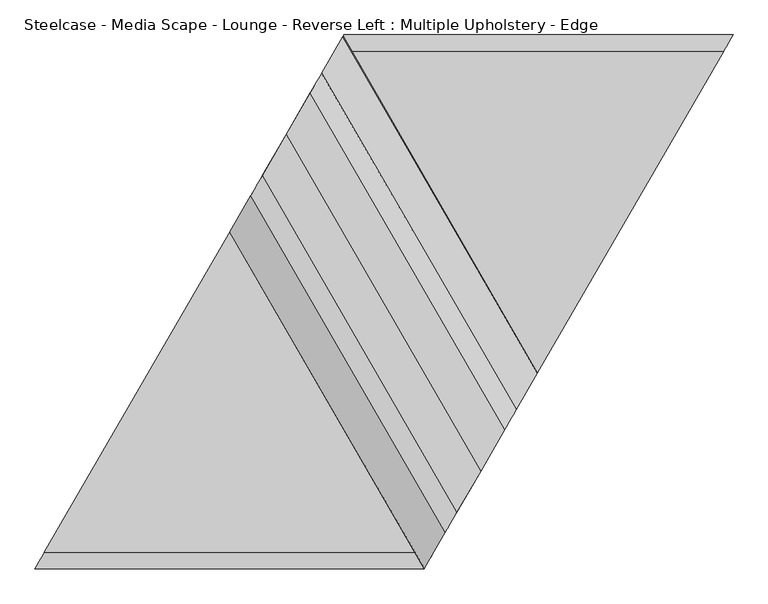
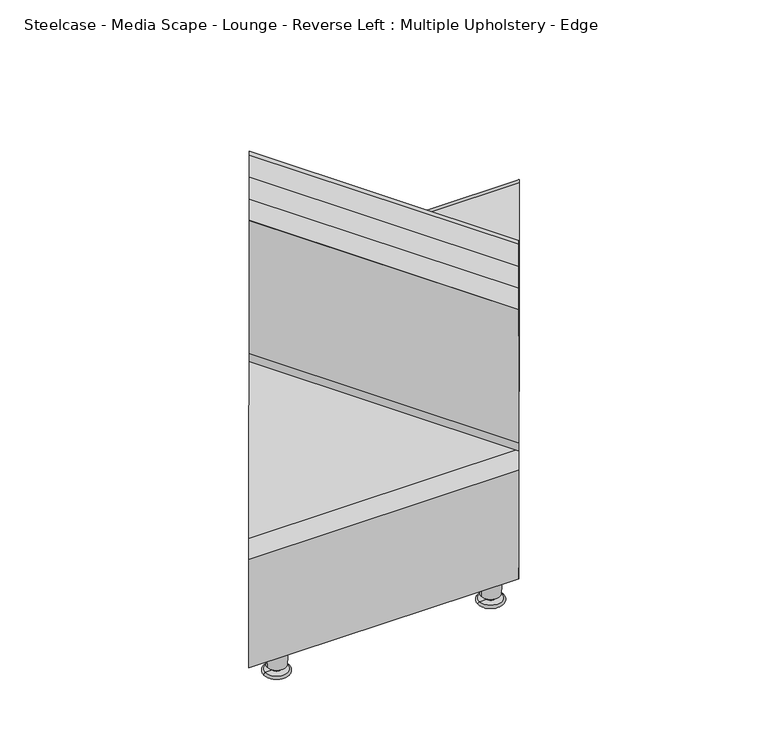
"""IFC4 building model written with IfcOpenShell, lengths in millimetres: furniture geometry, Steelcase - Media Scape - Lounge - Reverse Left : Multiple Upholstery - Edge."""

from ifc_helpers import new_model, si_unit, point, frame, origin, place, context, project, spatial, polyline, circle_curve, ellipse_curve, trimmed, source, transform, mapped, element, save
from ifc_brep_helpers import plane_surface, cylinder_surface, revolved_surface, advanced_brep


def steelcase_media_scape_lounge_reverse_left_multiple_538b377f(model_context):
    return source(origin(), model_context, "Body", "AdvancedBrep", [
        advanced_brep(
        [(695.4343233, 152.5570499, 736.0929961), (392.1305336, 677.8946237, 736.0929961), (355.1946098, 614.041743, 736.0929961), (658.4983994, 88.7041692, 736.0929961), (337.063593, 582.6977957, 710.4083904), (640.3673827, 57.3602219, 710.4083904), (337.6629318, 583.7339011, 710.4083904), (640.9667215, 58.3963272, 710.4083904), (355.1946098, 614.041743, 735.0769961), (658.4983994, 88.7041692, 735.0769961), (392.1305336, 677.8946237, 735.0769961), (695.4343233, 152.5570499, 735.0769961), (429.8477806, 743.0982149, 735.0769961), (733.1515703, 217.760641, 735.0769961), (447.3540891, 773.3621994, 710.6155836), (750.6578788, 248.0246256, 710.6155836), (447.9542677, 774.3997566, 710.6155836), (751.2580574, 249.0621827, 710.6155836), (429.8477806, 743.0982149, 736.0929961), (733.1515703, 217.760641, 736.0929961)],
        [
            (0, 1),
            (1, 2),
            (2, 3),
            (3, 0),
            (2, 4, ellipse_curve(frame((355.1946098, 614.041743, 704.0889961), z_axis=(0.8656115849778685, -0.5007160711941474, 0.0), x_axis=(-0.5007160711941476, -0.8656115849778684, 0.0)), 36.9374112, 32.004)),
            (4, 5),
            (5, 3, ellipse_curve(frame((658.4983994, 88.7041692, 704.0889961), z_axis=(-0.8656115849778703, 0.5007160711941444, 0.0), x_axis=(-0.5007160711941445, -0.86561158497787, 0.0)), 36.9374112, 32.004)),
            (4, 6),
            (6, 7),
            (7, 5),
            (6, 8, ellipse_curve(frame((355.1946098, 614.041743, 704.0889961), z_axis=(-0.8656115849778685, 0.5007160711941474, 0.0), x_axis=(0.5007160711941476, 0.8656115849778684, 0.0)), 35.764795, 30.988)),
            (8, 9),
            (9, 7, ellipse_curve(frame((658.4983994, 88.7041692, 704.0889961), z_axis=(0.8656115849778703, -0.5007160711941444, 0.0), x_axis=(0.5007160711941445, 0.86561158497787, 0.0)), 35.764795, 30.988)),
            (8, 10),
            (10, 11),
            (11, 9),
            (10, 12),
            (12, 13),
            (13, 11),
            (12, 14, ellipse_curve(frame((429.8477806, 743.0982149, 704.0889961), z_axis=(-0.8656115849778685, 0.5007160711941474, 0.0), x_axis=(0.5007160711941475, 0.8656115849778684, 0.0)), 35.764795, 30.988)),
            (14, 15),
            (15, 13, ellipse_curve(frame((733.1515703, 217.760641, 704.0889961), z_axis=(0.8656115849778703, -0.5007160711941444, 0.0), x_axis=(0.5007160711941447, 0.86561158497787, 0.0)), 35.764795, 30.988)),
            (14, 16),
            (16, 17),
            (17, 15),
            (16, 18, ellipse_curve(frame((429.8477806, 743.0982149, 704.0889961), z_axis=(0.8656115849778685, -0.5007160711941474, 0.0), x_axis=(-0.5007160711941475, -0.8656115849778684, 0.0)), 36.9374112, 32.004)),
            (18, 19),
            (19, 17, ellipse_curve(frame((733.1515703, 217.760641, 704.0889961), z_axis=(-0.8656115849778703, 0.5007160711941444, 0.0), x_axis=(-0.5007160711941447, -0.86561158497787, 0.0)), 36.9374112, 32.004)),
            (0, 19),
            (18, 1),
        ],
        [
            plane_surface(frame((739.8122575, 75.6922131, 736.0929961), z_axis=(0.0, 0.0, 1.0), x_axis=(-0.49999999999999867, 0.8660254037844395, 0.0))),
            cylinder_surface(frame((291.4293384, 724.4864327, 704.0889961), z_axis=(0.49999999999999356, -0.8660254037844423, 0.0), x_axis=(-0.8660254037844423, -0.49999999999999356, 0.0)), 32.004),
            plane_surface(frame((657.2906163, 28.0483214, 710.4083904), z_axis=(0.0, 0.0, -1.0), x_axis=(-0.4999999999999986, 0.8660254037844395, 0.0))),
            revolved_surface(polyline([(319.42982696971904, 614.0121638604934, 704.0889961), (640.5903917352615, 57.74574829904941, 704.0889961)]), (291.4293384, 724.4864327, 704.0889961), (-0.49999999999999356, 0.8660254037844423, 0.0)),
            plane_surface(frame((684.4612062, 43.7352688, 735.0769961), z_axis=(0.0, 0.0, -1.0), x_axis=(-0.49999999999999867, 0.8660254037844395, 0.0))),
            plane_surface(frame((739.8122575, 75.6922131, 735.0769961), z_axis=(0.0, 0.0, -1.0), x_axis=(-0.49999999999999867, 0.8660254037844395, 0.0))),
            revolved_surface(polyline([(447.7557882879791, 774.0566358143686, 704.0889961), (768.916353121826, 217.79022013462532, 704.0889961)]), (403.3023082, 789.0763219, 704.0889961), (-0.49999999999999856, 0.8660254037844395, 0.0)),
            plane_surface(frame((822.568597, 123.471608, 710.6155836), z_axis=(0.0, 0.0, -1.0), x_axis=(-0.49999999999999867, 0.8660254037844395, 0.0))),
            cylinder_surface(frame((403.3023082, 789.0763219, 704.0889961), z_axis=(0.49999999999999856, -0.8660254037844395, 0.0), x_axis=(0.8660254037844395, 0.49999999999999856, 0.0)), 32.004),
            plane_surface(frame((796.3341759, 108.325158, 736.0929961), z_axis=(0.0, 0.0, 1.0000000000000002), x_axis=(-0.4999999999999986, 0.8660254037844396, 0.0))),
            plane_surface(frame((1244.6, 1101.9257624, 750.6521515), z_axis=(0.8656115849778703, -0.5007160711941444, 0.0), x_axis=(0.0, 0.0, -1.0))),
            plane_surface(frame((-113.1046529, -195.5293698, 750.6521515), z_axis=(-0.8656115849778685, 0.5007160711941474, 0.0), x_axis=(0.0, 0.0, -1.0))),
        ],
        [
            (0, [[1, 2, 3, 4]]),
            (1, [[-3, 5, 6, 7]]),
            (2, [[-6, 8, 9, 10]]),
            (3, [[-9, 11, 12, 13]]),
            (4, [[-12, 14, 15, 16]]),
            (5, [[-15, 17, 18, 19]]),
            (6, [[-18, 20, 21, 22]]),
            (7, [[-21, 23, 24, 25]]),
            (8, [[-24, 26, 27, 28]]),
            (9, [[-1, 29, -27, 30]]),
            (10, [[-4, -7, -10, -13, -16, -19, -22, -25, -28, -29]]),
            (11, [[-2, -30, -26, -23, -20, -17, -14, -11, -8, -5]]),
        ],
    ),
        advanced_brep(
        [(733.2985607, 218.0147503, 735.33), (429.994771, 743.3523242, 735.33), (392.1305336, 677.8946237, 735.33), (695.4343233, 152.5570499, 735.33), (355.0476193, 613.7876338, 735.33), (658.351409, 88.4500599, 735.33), (337.0848346, 582.734517, 710.0547892), (640.3886243, 57.3969432, 710.0547892), (304.4075131, 526.243684, 438.6065476), (607.7113028, 0.9061101, 438.6065476), (319.5651722, 552.447447, 406.3510633), (622.8689619, 27.1098731, 406.3510633), (392.5844661, 678.6793583, 406.3510633), (695.8882558, 153.3417845, 406.3510633), (465.4772182, 804.6925109, 406.3510633), (768.7810079, 279.3549371, 406.3510633), (480.6348772, 830.896274, 438.6065476), (783.9386669, 305.5587001, 438.6065476), (447.9575558, 774.4054409, 710.0547892), (751.2613455, 249.067867, 710.0547892)],
        [
            (0, 1),
            (1, 2),
            (2, 3),
            (3, 0),
            (2, 4),
            (4, 5),
            (5, 3),
            (4, 6, ellipse_curve(frame((355.0476193, 613.7876338, 703.58), z_axis=(0.8656115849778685, -0.5007160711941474, 0.0), x_axis=(-0.5007160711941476, -0.8656115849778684, 0.0)), 36.6442572, 31.75)),
            (6, 7),
            (7, 5, ellipse_curve(frame((658.351409, 88.4500599, 703.58), z_axis=(-0.8656115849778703, 0.5007160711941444, 0.0), x_axis=(-0.5007160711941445, -0.86561158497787, 0.0)), 36.6442572, 31.75)),
            (6, 8),
            (8, 9),
            (9, 7),
            (8, 10, ellipse_curve(frame((319.5651722, 552.447447, 433.1428821), z_axis=(0.8656115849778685, -0.5007160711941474, 0.0), x_axis=(-0.5007160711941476, -0.8656115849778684, 0.0)), 30.9217732, 26.7918188)),
            (10, 11),
            (11, 9, ellipse_curve(frame((622.8689619, 27.1098731, 433.1428821), z_axis=(-0.8656115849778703, 0.5007160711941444, 0.0), x_axis=(-0.5007160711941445, -0.86561158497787, 0.0)), 30.9217732, 26.7918188)),
            (10, 12),
            (12, 13),
            (13, 11),
            (12, 14),
            (14, 15),
            (15, 13),
            (14, 16, ellipse_curve(frame((465.4772182, 804.6925109, 433.1428821), z_axis=(0.8656115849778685, -0.5007160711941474, 0.0), x_axis=(-0.5007160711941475, -0.8656115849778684, 0.0)), 30.9217732, 26.7918188)),
            (16, 17),
            (17, 15, ellipse_curve(frame((768.7810079, 279.3549371, 433.1428821), z_axis=(-0.8656115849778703, 0.5007160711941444, 0.0), x_axis=(-0.5007160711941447, -0.86561158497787, 0.0)), 30.9217732, 26.7918188)),
            (16, 18),
            (18, 19),
            (19, 17),
            (0, 19, ellipse_curve(frame((733.2985607, 218.0147503, 703.58), z_axis=(-0.8656115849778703, 0.5007160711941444, 0.0), x_axis=(-0.5007160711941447, -0.86561158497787, 0.0)), 36.6442572, 31.75)),
            (18, 1, ellipse_curve(frame((429.994771, 743.3523242, 703.58), z_axis=(0.8656115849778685, -0.5007160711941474, 0.0), x_axis=(-0.5007160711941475, -0.8656115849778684, 0.0)), 36.6442572, 31.75)),
        ],
        [
            plane_surface(frame((796.5544513, 108.452334, 735.33), z_axis=(0.0, 0.0, 1.0), x_axis=(-0.49999999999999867, 0.8660254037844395, 0.0))),
            plane_surface(frame((739.8122575, 75.6922131, 735.33), z_axis=(0.0, 0.0, 1.0), x_axis=(-0.49999999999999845, 0.8660254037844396, 0.0))),
            cylinder_surface(frame((291.2090631, 724.3592567, 703.58), z_axis=(0.49999999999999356, -0.8660254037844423, 0.0), x_axis=(-0.8660254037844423, -0.49999999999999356, 0.0)), 31.75),
            plane_surface(frame((657.3224483, 28.0666996, 710.0547892), z_axis=(-0.8478262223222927, -0.4894926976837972, 0.2039303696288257), x_axis=(-0.49999999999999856, 0.8660254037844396, 0.0))),
            cylinder_surface(frame((238.0361477, 693.6598597, 433.1428821), z_axis=(0.49999999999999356, -0.8660254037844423, 0.0), x_axis=(-0.8660254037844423, -0.49999999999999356, 0.0)), 26.7918188),
            plane_surface(frame((631.0680155, 12.9086957, 406.3510633), z_axis=(0.0, 0.0, -1.0000000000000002), x_axis=(-0.4999999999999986, 0.8660254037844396, 0.0))),
            plane_surface(frame((740.4925069, 76.0849553, 406.3510633), z_axis=(0.0, 0.0, -1.0), x_axis=(-0.49999999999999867, 0.8660254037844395, 0.0))),
            cylinder_surface(frame((456.6954989, 819.902895, 433.1428821), z_axis=(0.49999999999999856, -0.8660254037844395, 0.0), x_axis=(0.8660254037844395, 0.49999999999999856, 0.0)), 26.7918188),
            plane_surface(frame((872.4421732, 152.2661306, 438.6065476), z_axis=(0.8478262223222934, 0.489492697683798, 0.20393036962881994), x_axis=(-0.4999999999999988, 0.8660254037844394, 0.0))),
            cylinder_surface(frame((403.5225835, 789.203498, 703.58), z_axis=(0.49999999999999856, -0.8660254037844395, 0.0), x_axis=(0.8660254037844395, 0.49999999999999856, 0.0)), 31.75),
            plane_surface(frame((1244.6, 1101.9257624, 750.6521515), z_axis=(0.8656115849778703, -0.5007160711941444, 0.0), x_axis=(0.0, 0.0, -1.0))),
            plane_surface(frame((-113.1046529, -195.5293698, 750.6521515), z_axis=(-0.8656115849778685, 0.5007160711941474, 0.0), x_axis=(0.0, 0.0, -1.0))),
        ],
        [
            (0, [[1, 2, 3, 4]]),
            (1, [[-3, 5, 6, 7]]),
            (2, [[-6, 8, 9, 10]]),
            (3, [[-9, 11, 12, 13]]),
            (4, [[-12, 14, 15, 16]]),
            (5, [[-15, 17, 18, 19]]),
            (6, [[-18, 20, 21, 22]]),
            (7, [[-21, 23, 24, 25]]),
            (8, [[-24, 26, 27, 28]]),
            (9, [[-1, 29, -27, 30]]),
            (10, [[-4, -7, -10, -13, -16, -19, -22, -25, -28, -29]]),
            (11, [[-2, -30, -26, -23, -20, -17, -14, -11, -8, -5]]),
        ],
    ),
        advanced_brep(
        [(1059.8466558, 782.5339068, 74.676), (452.6594956, 782.5339068, 74.676), (482.1409984, 833.4999769, 374.7917281), (1089.3281586, 833.4999769, 374.7917281), (467.6556677, 808.4584998, 404.4443065), (1074.842828, 808.4584998, 404.4443065), (14.7196556, 25.4465658, 404.4443065), (621.9068159, 25.4465658, 404.4443065), (0.234325, 0.4050887, 374.7917281), (607.4214852, 0.4050887, 374.7917281), (29.7158278, 51.3711588, 74.676), (636.9029881, 51.3711588, 74.676), (243.0239183, 420.1269566, 74.676), (850.2110786, 420.1269566, 74.676)],
        [
            (0, 1),
            (1, 2),
            (2, 3),
            (3, 0),
            (2, 4, ellipse_curve(frame((467.6556677, 808.4584998, 379.0443065), z_axis=(0.8656115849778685, -0.5007160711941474, 0.0), x_axis=(0.5007160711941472, 0.8656115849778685, 0.0)), 29.343415, 25.4)),
            (4, 5),
            (5, 3, ellipse_curve(frame((1074.842828, 808.4584998, 379.0443065), z_axis=(-0.8656115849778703, 0.5007160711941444, 0.0), x_axis=(0.500716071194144, 0.8656115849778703, 0.0)), 29.343415, 25.4)),
            (4, 6),
            (6, 7),
            (7, 5),
            (6, 8, ellipse_curve(frame((14.7196556, 25.4465658, 379.0443065), z_axis=(0.8656115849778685, -0.5007160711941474, 0.0), x_axis=(0.5007160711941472, 0.8656115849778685, 0.0)), 29.343415, 25.4)),
            (8, 9),
            (9, 7, ellipse_curve(frame((621.9068159, 25.4465658, 379.0443065), z_axis=(-0.8656115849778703, 0.5007160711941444, 0.0), x_axis=(0.500716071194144, 0.8656115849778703, 0.0)), 29.343415, 25.4)),
            (8, 10),
            (10, 11),
            (11, 9),
            (10, 12),
            (12, 13),
            (13, 11),
            (0, 13),
            (12, 1),
        ],
        [
            plane_surface(frame((1094.6230669, 782.5339068, 74.676), z_axis=(0.0, 0.9858849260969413, -0.16742434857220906), x_axis=(-1.0, 0.0, 0.0))),
            cylinder_surface(frame((0.0, 808.4584998, 379.0443065), z_axis=(1.0, 0.0, 0.0), x_axis=(0.0, 1.0, 0.0)), 25.4),
            plane_surface(frame((1094.6230669, 808.4584998, 404.4443065), z_axis=(0.0, 0.0, 1.0), x_axis=(-1.0, 0.0, 0.0))),
            cylinder_surface(frame((0.0, 25.4465658, 379.0443065), z_axis=(1.0, 0.0, 0.0), x_axis=(0.0, -1.0, 0.0)), 25.4),
            plane_surface(frame((1094.6230669, 0.4050887, 374.7917281), z_axis=(0.0, -0.9858849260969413, -0.1674243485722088), x_axis=(-1.0, 0.0, 0.0))),
            plane_surface(frame((1094.6230669, 51.3711588, 74.676), z_axis=(0.0, 0.0, -1.0), x_axis=(-1.0, 0.0, 0.0))),
            plane_surface(frame((1094.6230669, 420.1269566, 74.676), z_axis=(0.0, 0.0, -1.0), x_axis=(-1.0, 0.0, 0.0))),
            plane_surface(frame((1244.6, 1101.9257624, 750.6521515), z_axis=(0.8656115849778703, -0.5007160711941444, 0.0), x_axis=(0.0, 0.0, -1.0))),
            plane_surface(frame((-113.1046529, -195.5293698, 750.6521515), z_axis=(-0.8656115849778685, 0.5007160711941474, 0.0), x_axis=(0.0, 0.0, -1.0))),
        ],
        [
            (0, [[1, 2, 3, 4]]),
            (1, [[-3, 5, 6, 7]]),
            (2, [[-6, 8, 9, 10]]),
            (3, [[-9, 11, 12, 13]]),
            (4, [[-12, 14, 15, 16]]),
            (5, [[-15, 17, 18, 19]]),
            (6, [[-1, 20, -18, 21]]),
            (7, [[-4, -7, -10, -13, -16, -19, -20]]),
            (8, [[-2, -21, -17, -14, -11, -8, -5]]),
        ],
    ),
        advanced_brep(
        [(964.0013944, 727.1583042, 74.1561731), (987.7883146, 727.1583042, 74.1561731), (940.2144743, 727.1583042, 74.1561731), (937.9477522, 727.1583042, 0.0), (990.0550367, 727.1583042, 0.0), (964.0013944, 727.1583042, 0.0), (937.9477522, 727.1583042, 6.3788302), (990.0550367, 727.1583042, 6.3788302), (954.4763944, 727.1583042, 6.3788302), (973.5263944, 727.1583042, 6.3788302), (954.4763944, 727.1583042, 17.057519), (973.5263944, 727.1583042, 17.057519), (943.0462782, 727.1583042, 17.057519), (984.9565107, 727.1583042, 17.057519)],
        [
            (0, 1),
            (1, 2, circle_curve(frame((964.0013944, 727.1583042, 74.1561731), z_axis=(0.0, 0.0, 1.0), x_axis=(1.0, 0.0, 0.0)), 23.7869202)),
            (2, 0),
            (2, 1, circle_curve(frame((964.0013944, 727.1583042, 74.1561731), z_axis=(0.0, 0.0, 1.0), x_axis=(1.0, 0.0, 0.0)), 23.7869202)),
            (3, 4, circle_curve(frame((964.0013944, 727.1583042, 0.0), z_axis=(0.0, 0.0, -1.0), x_axis=(1.0, 0.0, 0.0)), 26.0536423)),
            (4, 5),
            (5, 3),
            (4, 3, circle_curve(frame((964.0013944, 727.1583042, 0.0), z_axis=(0.0, 0.0, -1.0), x_axis=(1.0, 0.0, 0.0)), 26.0536423)),
            (3, 6, circle_curve(frame((937.9477522, 727.1583042, 3.1894151), z_axis=(0.0, 1.0, 0.0), x_axis=(-1.0, 0.0, 0.0)), 3.1894151)),
            (6, 7, circle_curve(frame((964.0013944, 727.1583042, 6.3788302), z_axis=(0.0, 0.0, -1.0), x_axis=(1.0, 0.0, 0.0)), 26.0536423)),
            (7, 4, circle_curve(frame((990.0550367, 727.1583042, 3.1894151), z_axis=(0.0, 1.0, 0.0), x_axis=(1.0, 0.0, 0.0)), 3.1894151)),
            (7, 6, circle_curve(frame((964.0013944, 727.1583042, 6.3788302), z_axis=(0.0, 0.0, -1.0), x_axis=(1.0, 0.0, 0.0)), 26.0536423)),
            (6, 8),
            (8, 9, circle_curve(frame((964.0013944, 727.1583042, 6.3788302), z_axis=(0.0, 0.0, -1.0), x_axis=(1.0, 0.0, 0.0)), 9.525)),
            (9, 7),
            (9, 8, circle_curve(frame((964.0013944, 727.1583042, 6.3788302), z_axis=(0.0, 0.0, -1.0), x_axis=(1.0, 0.0, 0.0)), 9.525)),
            (8, 10),
            (10, 11, circle_curve(frame((964.0013944, 727.1583042, 17.057519), z_axis=(0.0, 0.0, -1.0), x_axis=(1.0, 0.0, 0.0)), 9.525)),
            (11, 9),
            (11, 10, circle_curve(frame((964.0013944, 727.1583042, 17.057519), z_axis=(0.0, 0.0, -1.0), x_axis=(1.0, 0.0, 0.0)), 9.525)),
            (10, 12),
            (12, 13, circle_curve(frame((964.0013944, 727.1583042, 17.057519), z_axis=(0.0, 0.0, -1.0), x_axis=(1.0, 0.0, 0.0)), 20.9551163)),
            (13, 11),
            (13, 12, circle_curve(frame((964.0013944, 727.1583042, 17.057519), z_axis=(0.0, 0.0, -1.0), x_axis=(1.0, 0.0, 0.0)), 20.9551163)),
            (1, 13),
            (12, 2),
        ],
        [
            plane_surface(frame((964.0013944, 727.1583042, 74.1561731), z_axis=(0.0, 0.0, 1.0), x_axis=(1.0, 0.0, 0.0))),
            plane_surface(frame((964.0013944, 727.1583042, 0.0), z_axis=(0.0, 0.0, -1.0), x_axis=(1.0, 0.0, 0.0))),
            revolved_surface(trimmed(ellipse_curve(frame((990.0550367, 727.1583042, 3.1894151), z_axis=(0.0, -1.0, 0.0), x_axis=(1.0, 0.0, 0.0)), 3.1894151, 3.1894151), [point((990.0550367, 727.1583042, 0.0))], [point((990.0550367, 727.1583042, 6.3788302))], True, "CARTESIAN"), (964.0013944, 727.1583042, 61.4561731), (0.0, 0.0, 1.0)),
            plane_surface(frame((964.0013944, 727.1583042, 6.3788302), z_axis=(0.0, 0.0, 1.0), x_axis=(1.0, 0.0, 0.0))),
            cylinder_surface(frame((964.0013944, 727.1583042, 61.4561731), z_axis=(0.0, 0.0, 1.0), x_axis=(1.0, 0.0, 0.0)), 9.525),
            plane_surface(frame((964.0013944, 727.1583042, 17.057519), z_axis=(0.0, 0.0, -1.0), x_axis=(1.0, 0.0, 0.0))),
            revolved_surface(polyline([(984.9565107, 727.1583042, 17.057519), (987.7883146, 727.1583042, 74.1561731)]), (964.0013944, 727.1583042, 61.4561731), (0.0, 0.0, 1.0)),
        ],
        [
            (0, [[1, 2, 3]]),
            (0, [[-1, -3, 4]]),
            (1, [[5, 6, 7]]),
            (1, [[-6, 8, -7]]),
            (2, [[-5, 9, 10, 11]]),
            (2, [[-8, -11, 12, -9]]),
            (3, [[-10, 13, 14, 15]]),
            (3, [[-12, -15, 16, -13]]),
            (4, [[-14, 17, 18, 19]]),
            (4, [[-16, -19, 20, -17]]),
            (5, [[-18, 21, 22, 23]]),
            (5, [[-20, -23, 24, -21]]),
            (6, [[-2, 25, -22, 26]]),
            (6, [[-4, -26, -24, -25]]),
        ],
    ),
        advanced_brep(
        [(482.2011518, 727.1583042, 74.1561731), (505.988072, 727.1583042, 74.1561731), (458.4142317, 727.1583042, 74.1561731), (456.1475095, 727.1583042, 0.0), (508.2547941, 727.1583042, 0.0), (482.2011518, 727.1583042, 0.0), (456.1475095, 727.1583042, 6.3788302), (508.2547941, 727.1583042, 6.3788302), (472.6761518, 727.1583042, 6.3788302), (491.7261518, 727.1583042, 6.3788302), (472.6761518, 727.1583042, 17.057519), (491.7261518, 727.1583042, 17.057519), (461.2460355, 727.1583042, 17.057519), (503.1562681, 727.1583042, 17.057519)],
        [
            (0, 1),
            (1, 2, circle_curve(frame((482.2011518, 727.1583042, 74.1561731), z_axis=(0.0, 0.0, 1.0), x_axis=(1.0, 0.0, 0.0)), 23.7869202)),
            (2, 0),
            (2, 1, circle_curve(frame((482.2011518, 727.1583042, 74.1561731), z_axis=(0.0, 0.0, 1.0), x_axis=(1.0, 0.0, 0.0)), 23.7869202)),
            (3, 4, circle_curve(frame((482.2011518, 727.1583042, 0.0), z_axis=(0.0, 0.0, -1.0), x_axis=(1.0, 0.0, 0.0)), 26.0536423)),
            (4, 5),
            (5, 3),
            (4, 3, circle_curve(frame((482.2011518, 727.1583042, 0.0), z_axis=(0.0, 0.0, -1.0), x_axis=(1.0, 0.0, 0.0)), 26.0536423)),
            (3, 6, circle_curve(frame((456.1475095, 727.1583042, 3.1894151), z_axis=(0.0, 1.0, 0.0), x_axis=(-1.0, 0.0, 0.0)), 3.1894151)),
            (6, 7, circle_curve(frame((482.2011518, 727.1583042, 6.3788302), z_axis=(0.0, 0.0, -1.0), x_axis=(1.0, 0.0, 0.0)), 26.0536423)),
            (7, 4, circle_curve(frame((508.2547941, 727.1583042, 3.1894151), z_axis=(0.0, 1.0, 0.0), x_axis=(1.0, 0.0, 0.0)), 3.1894151)),
            (7, 6, circle_curve(frame((482.2011518, 727.1583042, 6.3788302), z_axis=(0.0, 0.0, -1.0), x_axis=(1.0, 0.0, 0.0)), 26.0536423)),
            (6, 8),
            (8, 9, circle_curve(frame((482.2011518, 727.1583042, 6.3788302), z_axis=(0.0, 0.0, -1.0), x_axis=(1.0, 0.0, 0.0)), 9.525)),
            (9, 7),
            (9, 8, circle_curve(frame((482.2011518, 727.1583042, 6.3788302), z_axis=(0.0, 0.0, -1.0), x_axis=(1.0, 0.0, 0.0)), 9.525)),
            (8, 10),
            (10, 11, circle_curve(frame((482.2011518, 727.1583042, 17.057519), z_axis=(0.0, 0.0, -1.0), x_axis=(1.0, 0.0, 0.0)), 9.525)),
            (11, 9),
            (11, 10, circle_curve(frame((482.2011518, 727.1583042, 17.057519), z_axis=(0.0, 0.0, -1.0), x_axis=(1.0, 0.0, 0.0)), 9.525)),
            (10, 12),
            (12, 13, circle_curve(frame((482.2011518, 727.1583042, 17.057519), z_axis=(0.0, 0.0, -1.0), x_axis=(1.0, 0.0, 0.0)), 20.9551163)),
            (13, 11),
            (13, 12, circle_curve(frame((482.2011518, 727.1583042, 17.057519), z_axis=(0.0, 0.0, -1.0), x_axis=(1.0, 0.0, 0.0)), 20.9551163)),
            (1, 13),
            (12, 2),
        ],
        [
            plane_surface(frame((482.2011518, 727.1583042, 74.1561731), z_axis=(0.0, 0.0, 1.0), x_axis=(1.0, 0.0, 0.0))),
            plane_surface(frame((482.2011518, 727.1583042, 0.0), z_axis=(0.0, 0.0, -1.0), x_axis=(1.0, 0.0, 0.0))),
            revolved_surface(trimmed(ellipse_curve(frame((508.2547941, 727.1583042, 3.1894151), z_axis=(0.0, -1.0, 0.0), x_axis=(1.0, 0.0, 0.0)), 3.1894151, 3.1894151), [point((508.2547941, 727.1583042, 0.0))], [point((508.2547941, 727.1583042, 6.3788302))], True, "CARTESIAN"), (482.2011518, 727.1583042, 61.4561731), (0.0, 0.0, 1.0)),
            plane_surface(frame((482.2011518, 727.1583042, 6.3788302), z_axis=(0.0, 0.0, 1.0), x_axis=(1.0, 0.0, 0.0))),
            cylinder_surface(frame((482.2011518, 727.1583042, 61.4561731), z_axis=(0.0, 0.0, 1.0), x_axis=(1.0, 0.0, 0.0)), 9.525),
            plane_surface(frame((482.2011518, 727.1583042, 17.057519), z_axis=(0.0, 0.0, -1.0), x_axis=(1.0, 0.0, 0.0))),
            revolved_surface(polyline([(503.1562681, 727.1583042, 17.057519), (505.988072, 727.1583042, 74.1561731)]), (482.2011518, 727.1583042, 61.4561731), (0.0, 0.0, 1.0)),
        ],
        [
            (0, [[1, 2, 3]]),
            (0, [[-1, -3, 4]]),
            (1, [[5, 6, 7]]),
            (1, [[-6, 8, -7]]),
            (2, [[-5, 9, 10, 11]]),
            (2, [[-8, -11, 12, -9]]),
            (3, [[-10, 13, 14, 15]]),
            (3, [[-12, -15, 16, -13]]),
            (4, [[-14, 17, 18, 19]]),
            (4, [[-16, -19, 20, -17]]),
            (5, [[-18, 21, 22, 23]]),
            (5, [[-20, -23, 24, -21]]),
            (6, [[-2, 25, -22, 26]]),
            (6, [[-4, -26, -24, -25]]),
        ],
    ),
        advanced_brep(
        [(605.7651212, 106.9669449, 74.1561731), (629.5520414, 106.9669449, 74.1561731), (581.9782011, 106.9669449, 74.1561731), (579.711479, 106.9669449, 0.0), (631.8187635, 106.9669449, 0.0), (605.7651212, 106.9669449, 0.0), (579.711479, 106.9669449, 6.3788302), (631.8187635, 106.9669449, 6.3788302), (596.2401212, 106.9669449, 6.3788302), (615.2901212, 106.9669449, 6.3788302), (596.2401212, 106.9669449, 17.057519), (615.2901212, 106.9669449, 17.057519), (584.810005, 106.9669449, 17.057519), (626.7202375, 106.9669449, 17.057519)],
        [
            (0, 1),
            (1, 2, circle_curve(frame((605.7651212, 106.9669449, 74.1561731), z_axis=(0.0, 0.0, 1.0), x_axis=(1.0, 0.0, 0.0)), 23.7869202)),
            (2, 0),
            (2, 1, circle_curve(frame((605.7651212, 106.9669449, 74.1561731), z_axis=(0.0, 0.0, 1.0), x_axis=(1.0, 0.0, 0.0)), 23.7869202)),
            (3, 4, circle_curve(frame((605.7651212, 106.9669449, 0.0), z_axis=(0.0, 0.0, -1.0), x_axis=(1.0, 0.0, 0.0)), 26.0536423)),
            (4, 5),
            (5, 3),
            (4, 3, circle_curve(frame((605.7651212, 106.9669449, 0.0), z_axis=(0.0, 0.0, -1.0), x_axis=(1.0, 0.0, 0.0)), 26.0536423)),
            (3, 6, circle_curve(frame((579.711479, 106.9669449, 3.1894151), z_axis=(0.0, 1.0, 0.0), x_axis=(-1.0, 0.0, 0.0)), 3.1894151)),
            (6, 7, circle_curve(frame((605.7651212, 106.9669449, 6.3788302), z_axis=(0.0, 0.0, -1.0), x_axis=(1.0, 0.0, 0.0)), 26.0536423)),
            (7, 4, circle_curve(frame((631.8187635, 106.9669449, 3.1894151), z_axis=(0.0, 1.0, 0.0), x_axis=(1.0, 0.0, 0.0)), 3.1894151)),
            (7, 6, circle_curve(frame((605.7651212, 106.9669449, 6.3788302), z_axis=(0.0, 0.0, -1.0), x_axis=(1.0, 0.0, 0.0)), 26.0536423)),
            (6, 8),
            (8, 9, circle_curve(frame((605.7651212, 106.9669449, 6.3788302), z_axis=(0.0, 0.0, -1.0), x_axis=(1.0, 0.0, 0.0)), 9.525)),
            (9, 7),
            (9, 8, circle_curve(frame((605.7651212, 106.9669449, 6.3788302), z_axis=(0.0, 0.0, -1.0), x_axis=(1.0, 0.0, 0.0)), 9.525)),
            (8, 10),
            (10, 11, circle_curve(frame((605.7651212, 106.9669449, 17.057519), z_axis=(0.0, 0.0, -1.0), x_axis=(1.0, 0.0, 0.0)), 9.525)),
            (11, 9),
            (11, 10, circle_curve(frame((605.7651212, 106.9669449, 17.057519), z_axis=(0.0, 0.0, -1.0), x_axis=(1.0, 0.0, 0.0)), 9.525)),
            (10, 12),
            (12, 13, circle_curve(frame((605.7651212, 106.9669449, 17.057519), z_axis=(0.0, 0.0, -1.0), x_axis=(1.0, 0.0, 0.0)), 20.9551163)),
            (13, 11),
            (13, 12, circle_curve(frame((605.7651212, 106.9669449, 17.057519), z_axis=(0.0, 0.0, -1.0), x_axis=(1.0, 0.0, 0.0)), 20.9551163)),
            (1, 13),
            (12, 2),
        ],
        [
            plane_surface(frame((605.7651212, 106.9669449, 74.1561731), z_axis=(0.0, 0.0, 1.0), x_axis=(1.0, 0.0, 0.0))),
            plane_surface(frame((605.7651212, 106.9669449, 0.0), z_axis=(0.0, 0.0, -1.0), x_axis=(1.0, 0.0, 0.0))),
            revolved_surface(trimmed(ellipse_curve(frame((631.8187635, 106.9669449, 3.1894151), z_axis=(0.0, -1.0, 0.0), x_axis=(1.0, 0.0, 0.0)), 3.1894151, 3.1894151), [point((631.8187635, 106.9669449, 0.0))], [point((631.8187635, 106.9669449, 6.3788302))], True, "CARTESIAN"), (605.7651212, 106.9669449, 61.4561731), (0.0, 0.0, 1.0)),
            plane_surface(frame((605.7651212, 106.9669449, 6.3788302), z_axis=(0.0, 0.0, 1.0), x_axis=(1.0, 0.0, 0.0))),
            cylinder_surface(frame((605.7651212, 106.9669449, 61.4561731), z_axis=(0.0, 0.0, 1.0), x_axis=(1.0, 0.0, 0.0)), 9.525),
            plane_surface(frame((605.7651212, 106.9669449, 17.057519), z_axis=(0.0, 0.0, -1.0), x_axis=(1.0, 0.0, 0.0))),
            revolved_surface(polyline([(626.7202375, 106.9669449, 17.057519), (629.5520414, 106.9669449, 74.1561731)]), (605.7651212, 106.9669449, 61.4561731), (0.0, 0.0, 1.0)),
        ],
        [
            (0, [[1, 2, 3]]),
            (0, [[-1, -3, 4]]),
            (1, [[5, 6, 7]]),
            (1, [[-6, 8, -7]]),
            (2, [[-5, 9, 10, 11]]),
            (2, [[-8, -11, 12, -9]]),
            (3, [[-10, 13, 14, 15]]),
            (3, [[-12, -15, 16, -13]]),
            (4, [[-14, 17, 18, 19]]),
            (4, [[-16, -19, 20, -17]]),
            (5, [[-18, 21, 22, 23]]),
            (5, [[-20, -23, 24, -21]]),
            (6, [[-2, 25, -22, 26]]),
            (6, [[-4, -26, -24, -25]]),
        ],
    ),
        advanced_brep(
        [(123.9648786, 106.9669449, 74.1561731), (147.7517988, 106.9669449, 74.1561731), (100.1779585, 106.9669449, 74.1561731), (97.9112364, 106.9669449, 0.0), (150.0185209, 106.9669449, 0.0), (123.9648786, 106.9669449, 0.0), (97.9112364, 106.9669449, 6.3788302), (150.0185209, 106.9669449, 6.3788302), (114.4398786, 106.9669449, 6.3788302), (133.4898786, 106.9669449, 6.3788302), (114.4398786, 106.9669449, 17.057519), (133.4898786, 106.9669449, 17.057519), (103.0097624, 106.9669449, 17.057519), (144.9199949, 106.9669449, 17.057519)],
        [
            (0, 1),
            (1, 2, circle_curve(frame((123.9648786, 106.9669449, 74.1561731), z_axis=(0.0, 0.0, 1.0), x_axis=(1.0, 0.0, 0.0)), 23.7869202)),
            (2, 0),
            (2, 1, circle_curve(frame((123.9648786, 106.9669449, 74.1561731), z_axis=(0.0, 0.0, 1.0), x_axis=(1.0, 0.0, 0.0)), 23.7869202)),
            (3, 4, circle_curve(frame((123.9648786, 106.9669449, 0.0), z_axis=(0.0, 0.0, -1.0), x_axis=(1.0, 0.0, 0.0)), 26.0536423)),
            (4, 5),
            (5, 3),
            (4, 3, circle_curve(frame((123.9648786, 106.9669449, 0.0), z_axis=(0.0, 0.0, -1.0), x_axis=(1.0, 0.0, 0.0)), 26.0536423)),
            (3, 6, circle_curve(frame((97.9112364, 106.9669449, 3.1894151), z_axis=(0.0, 1.0, 0.0), x_axis=(-1.0, 0.0, 0.0)), 3.1894151)),
            (6, 7, circle_curve(frame((123.9648786, 106.9669449, 6.3788302), z_axis=(0.0, 0.0, -1.0), x_axis=(1.0, 0.0, 0.0)), 26.0536423)),
            (7, 4, circle_curve(frame((150.0185209, 106.9669449, 3.1894151), z_axis=(0.0, 1.0, 0.0), x_axis=(1.0, 0.0, 0.0)), 3.1894151)),
            (7, 6, circle_curve(frame((123.9648786, 106.9669449, 6.3788302), z_axis=(0.0, 0.0, -1.0), x_axis=(1.0, 0.0, 0.0)), 26.0536423)),
            (6, 8),
            (8, 9, circle_curve(frame((123.9648786, 106.9669449, 6.3788302), z_axis=(0.0, 0.0, -1.0), x_axis=(1.0, 0.0, 0.0)), 9.525)),
            (9, 7),
            (9, 8, circle_curve(frame((123.9648786, 106.9669449, 6.3788302), z_axis=(0.0, 0.0, -1.0), x_axis=(1.0, 0.0, 0.0)), 9.525)),
            (8, 10),
            (10, 11, circle_curve(frame((123.9648786, 106.9669449, 17.057519), z_axis=(0.0, 0.0, -1.0), x_axis=(1.0, 0.0, 0.0)), 9.525)),
            (11, 9),
            (11, 10, circle_curve(frame((123.9648786, 106.9669449, 17.057519), z_axis=(0.0, 0.0, -1.0), x_axis=(1.0, 0.0, 0.0)), 9.525)),
            (10, 12),
            (12, 13, circle_curve(frame((123.9648786, 106.9669449, 17.057519), z_axis=(0.0, 0.0, -1.0), x_axis=(1.0, 0.0, 0.0)), 20.9551163)),
            (13, 11),
            (13, 12, circle_curve(frame((123.9648786, 106.9669449, 17.057519), z_axis=(0.0, 0.0, -1.0), x_axis=(1.0, 0.0, 0.0)), 20.9551163)),
            (1, 13),
            (12, 2),
        ],
        [
            plane_surface(frame((123.9648786, 106.9669449, 74.1561731), z_axis=(0.0, 0.0, 1.0), x_axis=(1.0, 0.0, 0.0))),
            plane_surface(frame((123.9648786, 106.9669449, 0.0), z_axis=(0.0, 0.0, -1.0), x_axis=(1.0, 0.0, 0.0))),
            revolved_surface(trimmed(ellipse_curve(frame((150.0185209, 106.9669449, 3.1894151), z_axis=(0.0, -1.0, 0.0), x_axis=(1.0, 0.0, 0.0)), 3.1894151, 3.1894151), [point((150.0185209, 106.9669449, 0.0))], [point((150.0185209, 106.9669449, 6.3788302))], True, "CARTESIAN"), (123.9648786, 106.9669449, 61.4561731), (0.0, 0.0, 1.0)),
            plane_surface(frame((123.9648786, 106.9669449, 6.3788302), z_axis=(0.0, 0.0, 1.0), x_axis=(1.0, 0.0, 0.0))),
            cylinder_surface(frame((123.9648786, 106.9669449, 61.4561731), z_axis=(0.0, 0.0, 1.0), x_axis=(1.0, 0.0, 0.0)), 9.525),
            plane_surface(frame((123.9648786, 106.9669449, 17.057519), z_axis=(0.0, 0.0, -1.0), x_axis=(1.0, 0.0, 0.0))),
            revolved_surface(polyline([(144.9199949, 106.9669449, 17.057519), (147.7517988, 106.9669449, 74.1561731)]), (123.9648786, 106.9669449, 61.4561731), (0.0, 0.0, 1.0)),
        ],
        [
            (0, [[1, 2, 3]]),
            (0, [[-1, -3, 4]]),
            (1, [[5, 6, 7]]),
            (1, [[-6, 8, -7]]),
            (2, [[-5, 9, 10, 11]]),
            (2, [[-8, -11, 12, -9]]),
            (3, [[-10, 13, 14, 15]]),
            (3, [[-12, -15, 16, -13]]),
            (4, [[-14, 17, 18, 19]]),
            (4, [[-16, -19, 20, -17]]),
            (5, [[-18, 21, 22, 23]]),
            (5, [[-20, -23, 24, -21]]),
            (6, [[-2, 25, -22, 26]]),
            (6, [[-4, -26, -24, -25]]),
        ],
    ),
    ])


if __name__ == "__main__":
    model = new_model("IFC4")
    model_context = context("Model", 3, world=origin())
    ifc_project = project(units=[si_unit("LENGTHUNIT", "METRE", prefix="MILLI")], contexts=[model_context])
    site = spatial("IfcSite", under=ifc_project)
    building = spatial("IfcBuilding", under=site)
    placement = place(None, origin())
    steelcase_media_scape_lounge_reverse_left_multiple_shape = steelcase_media_scape_lounge_reverse_left_multiple_538b377f(model_context)
    element("IfcFurniture", 1, ObjectType="Steelcase - Media Scape - Lounge - Reverse Left : Multiple Upholstery - Edge", at=placement, inside=building, context=model_context, shape_type="MappedRepresentation", body=[
        mapped(steelcase_media_scape_lounge_reverse_left_multiple_shape, transform((0.0, 0.0, 0.0), x_axis=(1.0, 0.0, 0.0), y_axis=(0.0, 1.0, 0.0), z_axis=(0.0, 0.0, 1.0))),
    ])
    save(model, "model.ifc")
